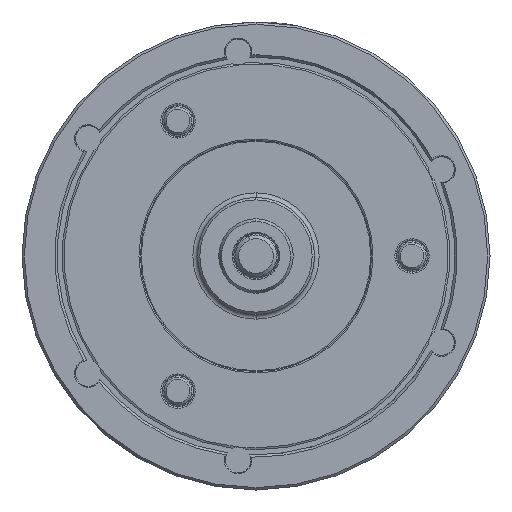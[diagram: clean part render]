
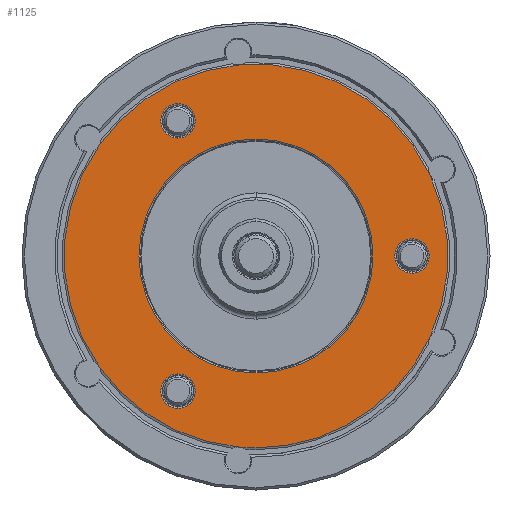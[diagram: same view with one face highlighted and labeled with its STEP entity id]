
A CAD part, left-side view. The second image highlights one B-rep face of the part: STEP entity #1125.
In plain terms, the highlighted planar face has unit normal (-1, 0, 0) as drawn and (0, 0, -1) by its records, which use the part's own axes.
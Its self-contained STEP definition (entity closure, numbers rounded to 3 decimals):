
#134 = EDGE_LOOP ( 'NONE', ( #42826, #6610 ) ) ;
#985 = CARTESIAN_POINT ( 'NONE',  ( 0., 0., -83. ) ) ;
#1125 = ADVANCED_FACE ( 'NONE', ( #43610, #47692, #39729, #39086, #46984 ), #27809, .F. ) ;
#1441 = DIRECTION ( 'NONE',  ( 0., 0., 1. ) ) ;
#2305 = ORIENTED_EDGE ( 'NONE', *, *, #52906, .T. ) ;
#2774 = CARTESIAN_POINT ( 'NONE',  ( 57.742, 33.338, -83. ) ) ;
#3727 = CARTESIAN_POINT ( 'NONE',  ( -57.742, 33.338, -83. ) ) ;
#3752 = EDGE_CURVE ( 'NONE', #50586, #8606, #15976, .T. ) ;
#3754 = CARTESIAN_POINT ( 'NONE',  ( -81.688, 7.147, -83. ) ) ;
#3981 = DIRECTION ( 'NONE',  ( 0., 0., 1. ) ) ;
#4061 = AXIS2_PLACEMENT_3D ( 'NONE', #39623, #40775, #34840 ) ;
#4074 = CARTESIAN_POINT ( 'NONE',  ( 57.742, 33.338, -83. ) ) ;
#4113 = DIRECTION ( 'NONE',  ( 1., 0., 0. ) ) ;
#4120 = ORIENTED_EDGE ( 'NONE', *, *, #53094, .F. ) ;
#4589 = VERTEX_POINT ( 'NONE', #52695 ) ;
#4912 = AXIS2_PLACEMENT_3D ( 'NONE', #4074, #31293, #53626 ) ;
#5234 = CARTESIAN_POINT ( 'NONE',  ( 0., 0., -83. ) ) ;
#5361 = DIRECTION ( 'NONE',  ( 1., 0., 0. ) ) ;
#5378 = CARTESIAN_POINT ( 'NONE',  ( 82., 0., -83. ) ) ;
#5991 = VERTEX_POINT ( 'NONE', #17836 ) ;
#6137 = VERTEX_POINT ( 'NONE', #25748 ) ;
#6610 = ORIENTED_EDGE ( 'NONE', *, *, #53584, .T. ) ;
#6653 = DIRECTION ( 'NONE',  ( 1., 0., 0. ) ) ;
#7164 = DIRECTION ( 'NONE',  ( 1., 0., 0. ) ) ;
#7345 = ORIENTED_EDGE ( 'NONE', *, *, #38602, .T. ) ;
#7667 = EDGE_CURVE ( 'NONE', #38719, #21160, #32310, .T. ) ;
#7731 = CARTESIAN_POINT ( 'NONE',  ( 0., -66.675, -83. ) ) ;
#7811 = CIRCLE ( 'NONE', #37859, 82. ) ;
#7930 = CARTESIAN_POINT ( 'NONE',  ( -50., 0., -83. ) ) ;
#8127 = DIRECTION ( 'NONE',  ( 1., 0., 0. ) ) ;
#8606 = VERTEX_POINT ( 'NONE', #52727 ) ;
#9647 = DIRECTION ( 'NONE',  ( 1., 0., 0. ) ) ;
#10194 = CARTESIAN_POINT ( 'NONE',  ( 0., 0., -83. ) ) ;
#10925 = DIRECTION ( 'NONE',  ( 0., 0., 1. ) ) ;
#11488 = DIRECTION ( 'NONE',  ( 0., 0., 1. ) ) ;
#13222 = CIRCLE ( 'NONE', #40459, 82. ) ;
#13268 = ORIENTED_EDGE ( 'NONE', *, *, #53085, .F. ) ;
#13786 = AXIS2_PLACEMENT_3D ( 'NONE', #14709, #14642, #14592 ) ;
#14455 = DIRECTION ( 'NONE',  ( 1., 0., 0. ) ) ;
#14592 = DIRECTION ( 'NONE',  ( 1., 0., 0. ) ) ;
#14642 = DIRECTION ( 'NONE',  ( 0., 0., 1. ) ) ;
#14709 = CARTESIAN_POINT ( 'NONE',  ( 0., 0., -83. ) ) ;
#15354 = ORIENTED_EDGE ( 'NONE', *, *, #53264, .F. ) ;
#15901 = AXIS2_PLACEMENT_3D ( 'NONE', #7731, #3981, #6653 ) ;
#15976 = CIRCLE ( 'NONE', #4061, 50. ) ;
#15991 = ORIENTED_EDGE ( 'NONE', *, *, #30410, .F. ) ;
#15996 = ORIENTED_EDGE ( 'NONE', *, *, #52750, .T. ) ;
#16942 = VERTEX_POINT ( 'NONE', #25538 ) ;
#17836 = CARTESIAN_POINT ( 'NONE',  ( 65.092, 33.338, -83. ) ) ;
#18831 = ORIENTED_EDGE ( 'NONE', *, *, #53000, .F. ) ;
#18892 = EDGE_LOOP ( 'NONE', ( #7345, #31453 ) ) ;
#19681 = CIRCLE ( 'NONE', #42036, 7.35 ) ;
#19821 = CARTESIAN_POINT ( 'NONE',  ( 0., 0., -83. ) ) ;
#20962 = CIRCLE ( 'NONE', #35666, 50. ) ;
#21160 = VERTEX_POINT ( 'NONE', #21489 ) ;
#21489 = CARTESIAN_POINT ( 'NONE',  ( -7.35, -66.675, -83. ) ) ;
#23301 = CARTESIAN_POINT ( 'NONE',  ( 7.35, -66.675, -83. ) ) ;
#23592 = CARTESIAN_POINT ( 'NONE',  ( 47.033, 67.17, -83. ) ) ;
#24043 = DIRECTION ( 'NONE',  ( 1., 0., 0. ) ) ;
#24146 = VERTEX_POINT ( 'NONE', #23592 ) ;
#24168 = CIRCLE ( 'NONE', #4912, 7.35 ) ;
#24595 = AXIS2_PLACEMENT_3D ( 'NONE', #25460, #25414, #25369 ) ;
#25369 = DIRECTION ( 'NONE',  ( 1., 0., 0. ) ) ;
#25414 = DIRECTION ( 'NONE',  ( 0., 0., 1. ) ) ;
#25460 = CARTESIAN_POINT ( 'NONE',  ( -57.742, 33.338, -83. ) ) ;
#25538 = CARTESIAN_POINT ( 'NONE',  ( -50.392, 33.338, -83. ) ) ;
#25748 = CARTESIAN_POINT ( 'NONE',  ( -47.033, 67.17, -83. ) ) ;
#26863 = CARTESIAN_POINT ( 'NONE',  ( 0., 0., -83. ) ) ;
#27809 = PLANE ( 'NONE',  #33971 ) ;
#27901 = VERTEX_POINT ( 'NONE', #34370 ) ;
#28164 = DIRECTION ( 'NONE',  ( 0., 0., 1. ) ) ;
#28572 = VERTEX_POINT ( 'NONE', #3754 ) ;
#28798 = EDGE_CURVE ( 'NONE', #5991, #31277, #24168, .T. ) ;
#29133 = CARTESIAN_POINT ( 'NONE',  ( 0., -50., -83. ) ) ;
#29459 = DIRECTION ( 'NONE',  ( 0., 0., 1. ) ) ;
#30410 = EDGE_CURVE ( 'NONE', #49435, #30667, #52795, .T. ) ;
#30667 = VERTEX_POINT ( 'NONE', #5378 ) ;
#30670 = DIRECTION ( 'NONE',  ( 0., 0., 1. ) ) ;
#31118 = DIRECTION ( 'NONE',  ( 1., 0., 0. ) ) ;
#31277 = VERTEX_POINT ( 'NONE', #42687 ) ;
#31293 = DIRECTION ( 'NONE',  ( 0., 0., 1. ) ) ;
#31453 = ORIENTED_EDGE ( 'NONE', *, *, #52830, .T. ) ;
#31571 = ORIENTED_EDGE ( 'NONE', *, *, #7667, .T. ) ;
#32310 = CIRCLE ( 'NONE', #15901, 7.35 ) ;
#32405 = DIRECTION ( 'NONE',  ( 0., 0., 1. ) ) ;
#32762 = ORIENTED_EDGE ( 'NONE', *, *, #53249, .F. ) ;
#33296 = DIRECTION ( 'NONE',  ( 0., 0., 1. ) ) ;
#33514 = CIRCLE ( 'NONE', #42265, 7.35 ) ;
#33971 = AXIS2_PLACEMENT_3D ( 'NONE', #29133, #28164, #52817 ) ;
#34370 = CARTESIAN_POINT ( 'NONE',  ( -65.092, 33.338, -83. ) ) ;
#34756 = DIRECTION ( 'NONE',  ( 0., 0., 1. ) ) ;
#34840 = DIRECTION ( 'NONE',  ( 1., 0., 0. ) ) ;
#35666 = AXIS2_PLACEMENT_3D ( 'NONE', #985, #30670, #5361 ) ;
#35998 = CARTESIAN_POINT ( 'NONE',  ( 0., 0., -83. ) ) ;
#36534 = CARTESIAN_POINT ( 'NONE',  ( 0., 0., -83. ) ) ;
#37859 = AXIS2_PLACEMENT_3D ( 'NONE', #19821, #49054, #24043 ) ;
#37931 = AXIS2_PLACEMENT_3D ( 'NONE', #36534, #11488, #40600 ) ;
#38028 = CIRCLE ( 'NONE', #41798, 82. ) ;
#38602 = EDGE_CURVE ( 'NONE', #16942, #27901, #51717, .T. ) ;
#38719 = VERTEX_POINT ( 'NONE', #23301 ) ;
#38858 = AXIS2_PLACEMENT_3D ( 'NONE', #35998, #10925, #40064 ) ;
#38947 = CARTESIAN_POINT ( 'NONE',  ( 34.655, -74.317, -83. ) ) ;
#39086 = FACE_OUTER_BOUND ( 'NONE', #49926, .T. ) ;
#39379 = DIRECTION ( 'NONE',  ( 0., 0., 1. ) ) ;
#39623 = CARTESIAN_POINT ( 'NONE',  ( 0., 0., -83. ) ) ;
#39729 = FACE_BOUND ( 'NONE', #43813, .T. ) ;
#39871 = CIRCLE ( 'NONE', #37931, 82. ) ;
#40064 = DIRECTION ( 'NONE',  ( 1., 0., 0. ) ) ;
#40223 = AXIS2_PLACEMENT_3D ( 'NONE', #10194, #39379, #14455 ) ;
#40459 = AXIS2_PLACEMENT_3D ( 'NONE', #26863, #1441, #31118 ) ;
#40600 = DIRECTION ( 'NONE',  ( 1., 0., 0. ) ) ;
#40775 = DIRECTION ( 'NONE',  ( 0., 0., 1. ) ) ;
#41301 = ORIENTED_EDGE ( 'NONE', *, *, #53174, .F. ) ;
#41779 = CARTESIAN_POINT ( 'NONE',  ( -34.655, -74.317, -83. ) ) ;
#41798 = AXIS2_PLACEMENT_3D ( 'NONE', #5234, #34756, #9647 ) ;
#42036 = AXIS2_PLACEMENT_3D ( 'NONE', #54458, #29459, #4113 ) ;
#42187 = VERTEX_POINT ( 'NONE', #41779 ) ;
#42265 = AXIS2_PLACEMENT_3D ( 'NONE', #3727, #33296, #8127 ) ;
#42516 = AXIS2_PLACEMENT_3D ( 'NONE', #2774, #32405, #7164 ) ;
#42687 = CARTESIAN_POINT ( 'NONE',  ( 50.392, 33.338, -83. ) ) ;
#42826 = ORIENTED_EDGE ( 'NONE', *, *, #3752, .T. ) ;
#43610 = FACE_BOUND ( 'NONE', #47038, .T. ) ;
#43813 = EDGE_LOOP ( 'NONE', ( #31571, #2305 ) ) ;
#45100 = CIRCLE ( 'NONE', #38858, 82. ) ;
#46429 = CIRCLE ( 'NONE', #40223, 82. ) ;
#46984 = FACE_BOUND ( 'NONE', #134, .T. ) ;
#47038 = EDGE_LOOP ( 'NONE', ( #49474, #15996 ) ) ;
#47135 = CIRCLE ( 'NONE', #42516, 7.35 ) ;
#47692 = FACE_BOUND ( 'NONE', #18892, .T. ) ;
#49054 = DIRECTION ( 'NONE',  ( 0., 0., 1. ) ) ;
#49435 = VERTEX_POINT ( 'NONE', #38947 ) ;
#49474 = ORIENTED_EDGE ( 'NONE', *, *, #28798, .T. ) ;
#49926 = EDGE_LOOP ( 'NONE', ( #18831, #13268, #15991, #4120, #41301, #32762, #15354 ) ) ;
#50586 = VERTEX_POINT ( 'NONE', #7930 ) ;
#51717 = CIRCLE ( 'NONE', #24595, 7.35 ) ;
#52695 = CARTESIAN_POINT ( 'NONE',  ( 81.688, 7.147, -83. ) ) ;
#52727 = CARTESIAN_POINT ( 'NONE',  ( 50., 0., -83. ) ) ;
#52750 = EDGE_CURVE ( 'NONE', #31277, #5991, #47135, .T. ) ;
#52795 = CIRCLE ( 'NONE', #13786, 82. ) ;
#52817 = DIRECTION ( 'NONE',  ( 1., 0., 0. ) ) ;
#52830 = EDGE_CURVE ( 'NONE', #27901, #16942, #33514, .T. ) ;
#52906 = EDGE_CURVE ( 'NONE', #21160, #38719, #19681, .T. ) ;
#53000 = EDGE_CURVE ( 'NONE', #4589, #24146, #38028, .T. ) ;
#53085 = EDGE_CURVE ( 'NONE', #30667, #4589, #13222, .T. ) ;
#53094 = EDGE_CURVE ( 'NONE', #42187, #49435, #46429, .T. ) ;
#53174 = EDGE_CURVE ( 'NONE', #28572, #42187, #45100, .T. ) ;
#53249 = EDGE_CURVE ( 'NONE', #6137, #28572, #39871, .T. ) ;
#53264 = EDGE_CURVE ( 'NONE', #24146, #6137, #7811, .T. ) ;
#53584 = EDGE_CURVE ( 'NONE', #8606, #50586, #20962, .T. ) ;
#53626 = DIRECTION ( 'NONE',  ( 1., 0., 0. ) ) ;
#54458 = CARTESIAN_POINT ( 'NONE',  ( 0., -66.675, -83. ) ) ;
